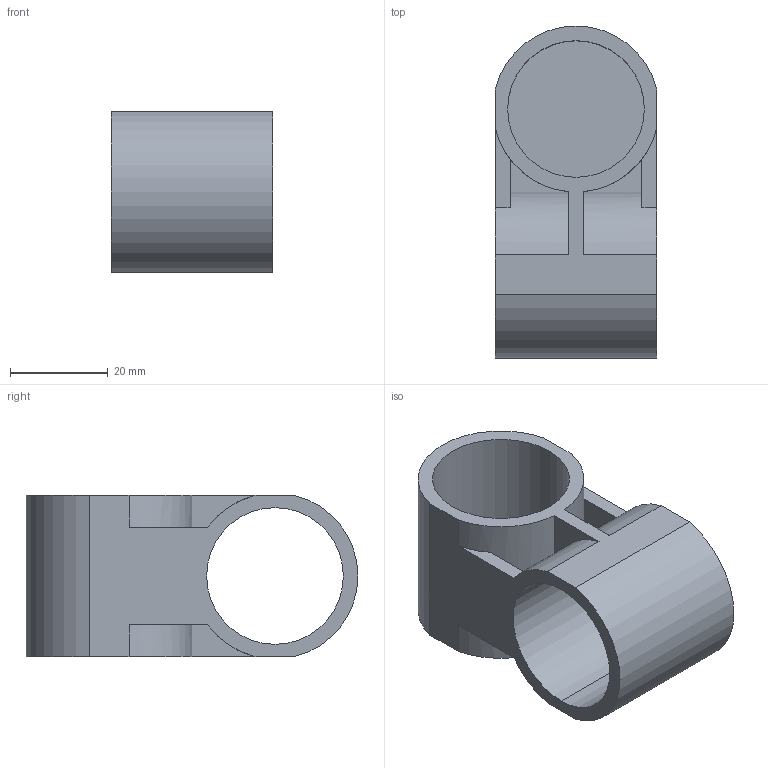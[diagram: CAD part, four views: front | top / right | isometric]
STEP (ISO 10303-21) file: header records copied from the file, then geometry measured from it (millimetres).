
FILE_DESCRIPTION (( 'STEP AP214' ), '1' );
FILE_NAME ('PJ-303.STEP', '2023-09-12T11:07:51', ( 'catia' ), ( 'HP Inc.' ), 'SwSTEP 2.0', 'SolidWorks 2021', '' );
FILE_SCHEMA (( 'AUTOMOTIVE_DESIGN' ));
Length unit declared in the file: millimetre
Products named in the file (1): PJ-303
Bounding box: 33 x 68 x 33 mm (x, y, z)
Volume: 22498.4 mm3; surface area: 15549.3 mm2
Topology: 1 solids, 1 shells, 35 faces, 96 edges, 64 vertices
Faces by surface type: plane 21, cylinder 14
Entity records: 1164 total; most frequent: DIRECTION 204, CARTESIAN_POINT 196, ORIENTED_EDGE 192, EDGE_CURVE 96, AXIS2_PLACEMENT_3D 72, VERTEX_POINT 64, VECTOR 60, LINE 60
